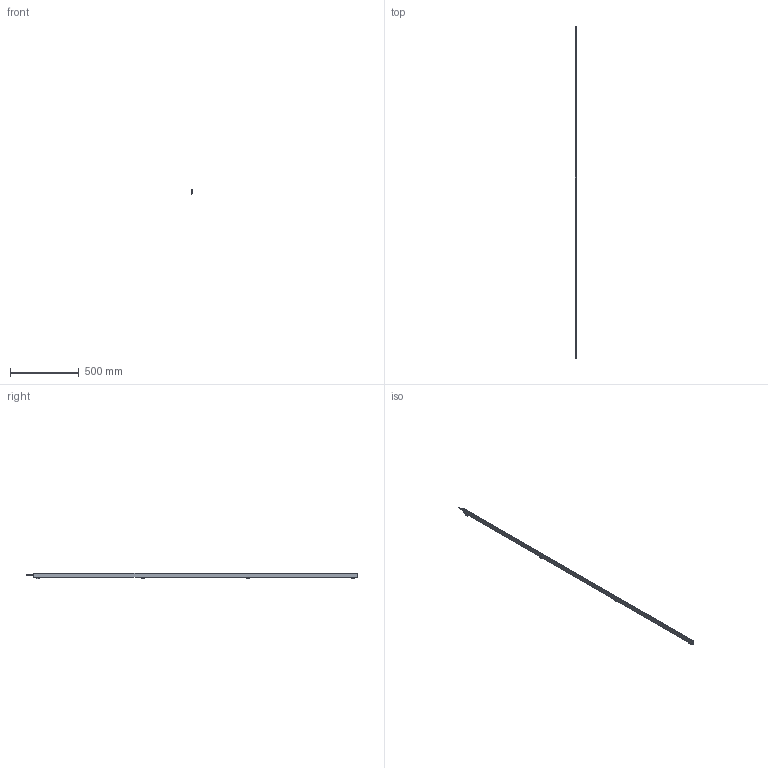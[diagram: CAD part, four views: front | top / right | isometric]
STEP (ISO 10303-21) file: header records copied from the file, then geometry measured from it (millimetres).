
FILE_DESCRIPTION (( 'STEP AP214' ), '1' );
FILE_NAME ('ILG-N-K2-2360mm.STEP', '2017-07-10T14:14:07', ( '' ), ( '' ), 'SwSTEP 2.0', 'SolidWorks 2016', '' );
FILE_SCHEMA (( 'AUTOMOTIVE_DESIGN' ));
Length unit declared in the file: millimetre
Products named in the file (1): ILG-N-K2-2360mm
Bounding box: 10.2 x 2413.5 x 42.41 mm (x, y, z)
Surface area: 395153 mm2 (no closed solid volume)
Topology: 0 solids, 17 shells, 822 faces, 2121 edges, 1329 vertices
Faces by surface type: plane 379, cylinder 305, cone 90, bspline 32, torus 16
Entity records: 36121 total; most frequent: CARTESIAN_POINT 7158, ORIENTED_EDGE 4195, DIRECTION 4057, EDGE_CURVE 2105, AXIS2_PLACEMENT_3D 1476, VERTEX_POINT 1329, VECTOR 1105, LINE 1105
